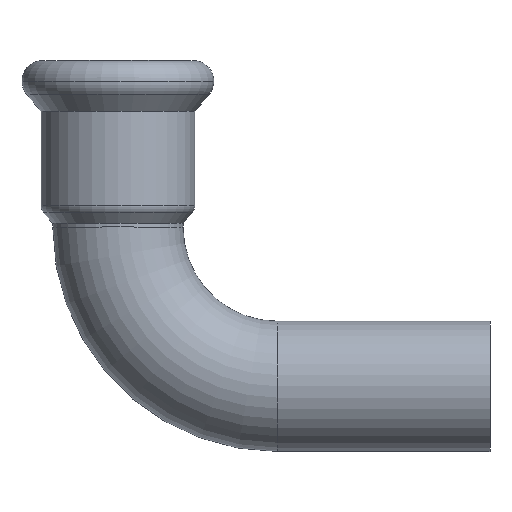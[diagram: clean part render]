
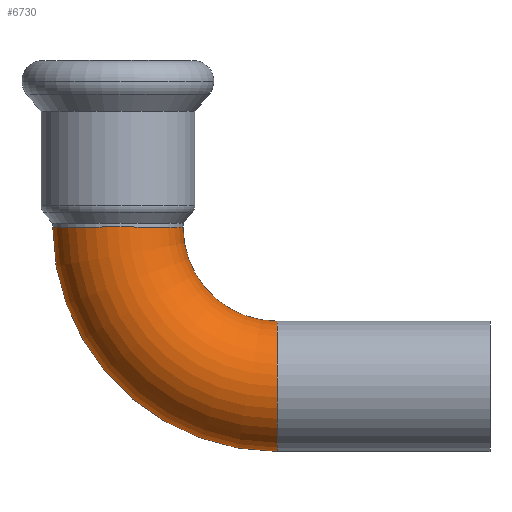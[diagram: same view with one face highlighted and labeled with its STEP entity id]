
A CAD part, top view. The second image highlights one B-rep face of the part: STEP entity #6730.
In plain terms, the highlighted toroidal (fillet/blend) face has major radius 22 mm and minor radius 9 mm.
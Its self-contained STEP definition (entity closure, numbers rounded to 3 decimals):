
#2240=CARTESIAN_POINT('',(-180.976,29.121,
0.));
#2250=VERTEX_POINT('',#2240);
#2280=CARTESIAN_POINT('',(-180.976,20.121,0.));
#2290=DIRECTION('',(1.,0.,0.));
#2300=DIRECTION('',(0.,-1.,0.));
#2310=AXIS2_PLACEMENT_3D('',#2280,#2290,#2300);
#2320=CIRCLE('',#2310,9.);
#2370=CARTESIAN_POINT('',(-180.976,11.121,0.));
#2380=VERTEX_POINT('',#2370);
#2680=CARTESIAN_POINT('',(-211.976,42.121,0.));
#2690=VERTEX_POINT('',#2680);
#2780=CARTESIAN_POINT('',(-193.976,42.121,
0.));
#2790=VERTEX_POINT('',#2780);
#2820=CARTESIAN_POINT('',(-202.976,42.121,0.));
#2830=DIRECTION('',(0.,-1.,0.));
#2840=DIRECTION('',(-1.,0.,0.));
#2850=AXIS2_PLACEMENT_3D('',#2820,#2830,#2840);
#2860=CIRCLE('',#2850,9.);
#2870=EDGE_CURVE('',#2790,#2690,#2860,.T.);
#5180=CARTESIAN_POINT('',(-180.976,42.121,0.));
#5190=DIRECTION('',(0.,0.,1.));
#5200=DIRECTION('',(-1.,0.,0.));
#5210=AXIS2_PLACEMENT_3D('',#5180,#5190,#5200);
#5220=TOROIDAL_SURFACE('',#5210,22.,9.);
#5240=CARTESIAN_POINT('',(-180.976,42.121,
0.));
#5250=DIRECTION('',(0.,0.,1.));
#5260=DIRECTION('',(-1.,0.,0.));
#5270=AXIS2_PLACEMENT_3D('',#5240,#5250,#5260);
#5280=CIRCLE('',#5270,13.);
#5290=EDGE_CURVE('',#2790,#2250,#5280,.T.);
#5380=CARTESIAN_POINT('',(-180.976,42.121,
0.));
#5390=DIRECTION('',(0.,0.,1.));
#5400=DIRECTION('',(-1.,0.,0.));
#5410=AXIS2_PLACEMENT_3D('',#5380,#5390,#5400);
#5420=CIRCLE('',#5410,31.);
#5430=EDGE_CURVE('',#2690,#2380,#5420,.T.);
#6130=EDGE_CURVE('',#2250,#2380,#2320,.T.);
#6670=ORIENTED_EDGE('',*,*,#5290,.F.);
#6680=ORIENTED_EDGE('',*,*,#6130,.F.);
#6690=ORIENTED_EDGE('',*,*,#5430,.T.);
#6700=ORIENTED_EDGE('',*,*,#2870,.T.);
#6710=EDGE_LOOP('',(#6700,#6690,#6680,#6670));
#6720=FACE_OUTER_BOUND('',#6710,.T.);
#6730=ADVANCED_FACE('',(#6720),#5220,.T.);
